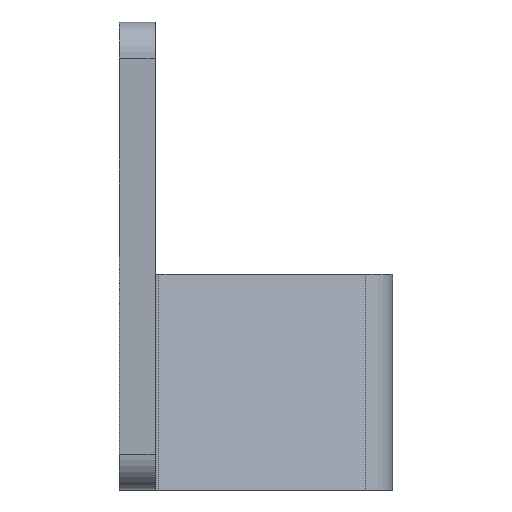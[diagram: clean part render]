
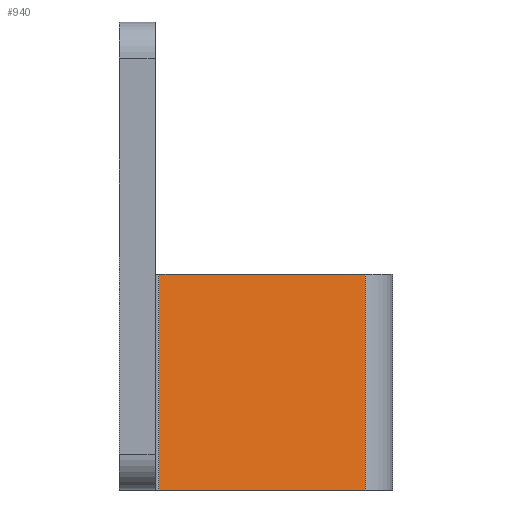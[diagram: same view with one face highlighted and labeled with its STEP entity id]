
A CAD part, left-side view. The second image highlights one B-rep face of the part: STEP entity #940.
In plain terms, the highlighted planar face has unit normal (-0.94, -0.342, 0).
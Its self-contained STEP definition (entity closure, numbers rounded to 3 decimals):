
#120=FACE_OUTER_BOUND('',#177,.T.);
#177=EDGE_LOOP('',(#774,#775,#776,#777));
#260=LINE('',#1562,#350);
#268=LINE('',#1588,#358);
#270=LINE('',#1594,#360);
#271=LINE('',#1595,#361);
#350=VECTOR('',#1255,10.);
#358=VECTOR('',#1281,10.);
#360=VECTOR('',#1287,10.);
#361=VECTOR('',#1288,10.);
#448=VERTEX_POINT('',#1559);
#449=VERTEX_POINT('',#1561);
#458=VERTEX_POINT('',#1587);
#460=VERTEX_POINT('',#1593);
#561=EDGE_CURVE('',#449,#448,#260,.T.);
#574=EDGE_CURVE('',#449,#458,#268,.T.);
#577=EDGE_CURVE('',#448,#460,#270,.T.);
#578=EDGE_CURVE('',#460,#458,#271,.T.);
#774=ORIENTED_EDGE('',*,*,#561,.T.);
#775=ORIENTED_EDGE('',*,*,#577,.T.);
#776=ORIENTED_EDGE('',*,*,#578,.T.);
#777=ORIENTED_EDGE('',*,*,#574,.F.);
#892=PLANE('',#1050);
#940=ADVANCED_FACE('',(#120),#892,.F.);
#1050=AXIS2_PLACEMENT_3D('',#1592,#1285,#1286);
#1255=DIRECTION('',(-0.342,0.94,0.));
#1281=DIRECTION('',(0.,0.,-1.));
#1285=DIRECTION('center_axis',(0.94,0.342,0.));
#1286=DIRECTION('ref_axis',(0.,0.,
1.));
#1287=DIRECTION('',(0.,0.,-1.));
#1288=DIRECTION('',(0.342,-0.94,0.));
#1559=CARTESIAN_POINT('',(-45.309,-5.526,30.));
#1561=CARTESIAN_POINT('',(-34.879,-34.184,30.));
#1562=CARTESIAN_POINT('',(-30.01,-47.561,30.));
#1587=CARTESIAN_POINT('',(-34.879,-34.184,0.));
#1588=CARTESIAN_POINT('',(-34.879,-34.184,32.5));
#1592=CARTESIAN_POINT('Origin',(-23.85,-64.486,32.5));
#1593=CARTESIAN_POINT('',(-45.309,-5.526,0.));
#1594=CARTESIAN_POINT('',(-45.309,-5.526,32.5));
#1595=CARTESIAN_POINT('',(-55.145,21.496,0.));
